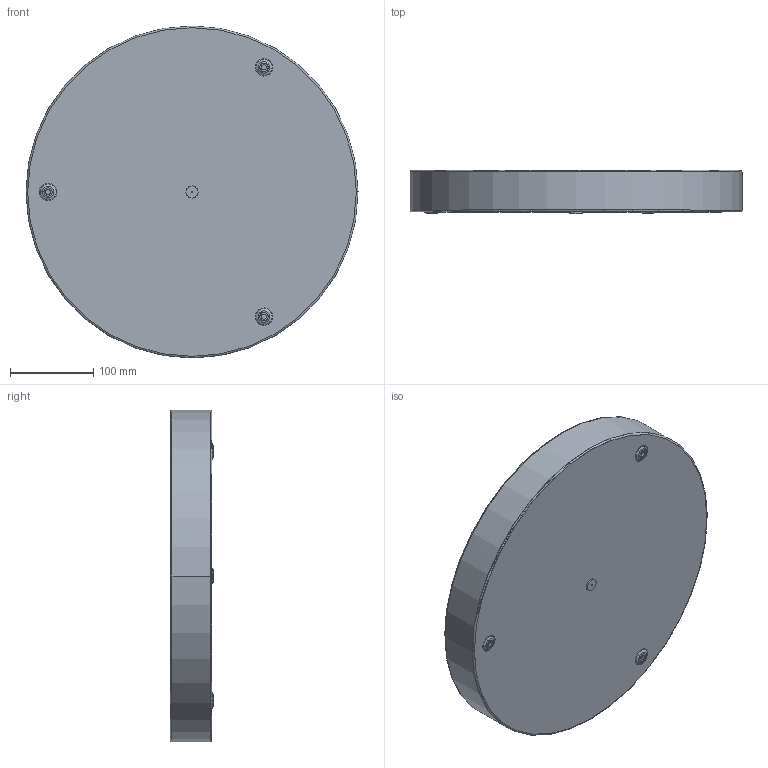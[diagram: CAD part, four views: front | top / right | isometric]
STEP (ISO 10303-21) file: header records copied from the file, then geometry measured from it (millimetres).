
FILE_DESCRIPTION((''),'2;1');
FILE_NAME('KL-D400-40W_ASM','2025-11-20T11:38:16',('Administrator'),(''),'CREO PARAMETRIC BY PTC INC, 2021164','CREO PARAMETRIC BY PTC INC, 2021164','');
FILE_SCHEMA(('CONFIG_CONTROL_DESIGN','SHAPE_APPEARANCE_LAYERS_GROUPS'));
Length unit declared in the file: millimetre
Products named in the file (4): PRT0001___2; PRT0002___2; 400_ASM_6_ASM; KL-D400-40W_ASM
Assembly tree (3 placements, depth 3):
  KL-D400-40W_ASM
    400_ASM_6_ASM
      PRT0001___2
      PRT0002___2
Bounding box: 400 x 52.2 x 400 mm (x, y, z)
Volume: 339071.9 mm3; surface area: 638897.2 mm2
Topology: 2 solids, 2 shells, 56 faces, 168 edges, 122 vertices
Faces by surface type: torus 22, cylinder 18, plane 10, cone 6
Entity records: 3071 total; most frequent: DIRECTION 442, CARTESIAN_POINT 355, ORIENTED_EDGE 336, PRESENTATION_STYLE_ASSIGNMENT 222, STYLED_ITEM 222, AXIS2_PLACEMENT_3D 209, CURVE_STYLE 168, EDGE_CURVE 168
